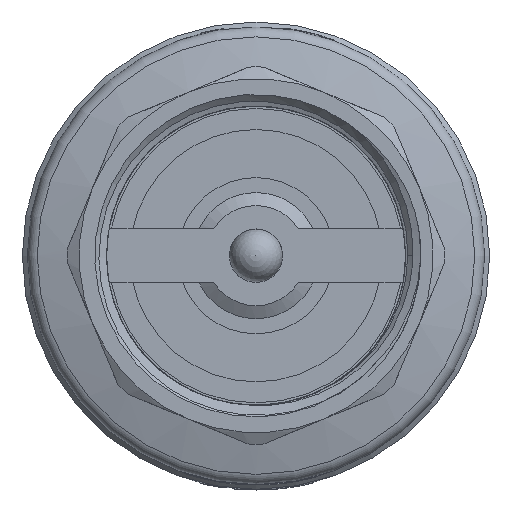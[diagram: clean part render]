
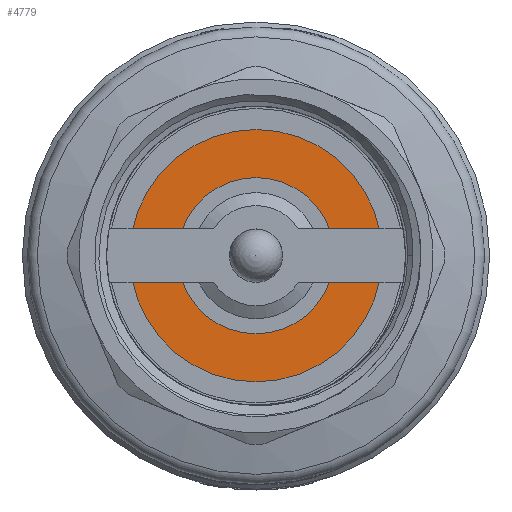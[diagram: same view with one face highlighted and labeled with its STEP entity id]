
A CAD part, left-side view. The second image highlights one B-rep face of the part: STEP entity #4779.
In plain terms, the highlighted planar face has unit normal (-1, 0, 0).
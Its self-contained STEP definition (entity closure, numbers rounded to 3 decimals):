
#101=FACE_BOUND('',#639,.T.);
#138=PLANE('',#5102);
#360=FACE_OUTER_BOUND('',#638,.T.);
#638=EDGE_LOOP('',(#3307,#3308));
#639=EDGE_LOOP('',(#3309,#3310));
#945=CIRCLE('',#5100,11.7);
#946=CIRCLE('',#5101,11.7);
#947=CIRCLE('',#5103,18.9);
#948=CIRCLE('',#5104,18.9);
#1997=VERTEX_POINT('',#9567);
#1998=VERTEX_POINT('',#9568);
#1999=VERTEX_POINT('',#9573);
#2000=VERTEX_POINT('',#9574);
#2521=EDGE_CURVE('',#1997,#1998,#945,.T.);
#2522=EDGE_CURVE('',#1998,#1997,#946,.T.);
#2524=EDGE_CURVE('',#1999,#2000,#947,.T.);
#2525=EDGE_CURVE('',#2000,#1999,#948,.T.);
#3307=ORIENTED_EDGE('',*,*,#2524,.F.);
#3308=ORIENTED_EDGE('',*,*,#2525,.F.);
#3309=ORIENTED_EDGE('',*,*,#2521,.T.);
#3310=ORIENTED_EDGE('',*,*,#2522,.T.);
#4779=ADVANCED_FACE('',(#360,#101),#138,.T.);
#5100=AXIS2_PLACEMENT_3D('',#9569,#5682,#5683);
#5101=AXIS2_PLACEMENT_3D('',#9570,#5684,#5685);
#5102=AXIS2_PLACEMENT_3D('',#9572,#5687,#5688);
#5103=AXIS2_PLACEMENT_3D('',#9575,#5689,#5690);
#5104=AXIS2_PLACEMENT_3D('',#9576,#5691,#5692);
#5682=DIRECTION('center_axis',(1.,0.,0.));
#5683=DIRECTION('ref_axis',(0.,0.,-1.));
#5684=DIRECTION('center_axis',(1.,0.,0.));
#5685=DIRECTION('ref_axis',(0.,0.,-1.));
#5687=DIRECTION('center_axis',(-1.,0.,0.));
#5688=DIRECTION('ref_axis',(0.,0.,1.));
#5689=DIRECTION('center_axis',(1.,0.,0.));
#5690=DIRECTION('ref_axis',(0.,0.,-1.));
#5691=DIRECTION('center_axis',(1.,0.,0.));
#5692=DIRECTION('ref_axis',(0.,0.,-1.));
#9567=CARTESIAN_POINT('',(2.34,11.7,0.));
#9568=CARTESIAN_POINT('',(2.34,-11.7,0.));
#9569=CARTESIAN_POINT('Origin',(2.34,0.,0.));
#9570=CARTESIAN_POINT('Origin',(2.34,0.,0.));
#9572=CARTESIAN_POINT('Origin',(2.34,18.9,0.));
#9573=CARTESIAN_POINT('',(2.34,18.9,0.));
#9574=CARTESIAN_POINT('',(2.34,-18.9,0.));
#9575=CARTESIAN_POINT('Origin',(2.34,0.,0.));
#9576=CARTESIAN_POINT('Origin',(2.34,0.,0.));
